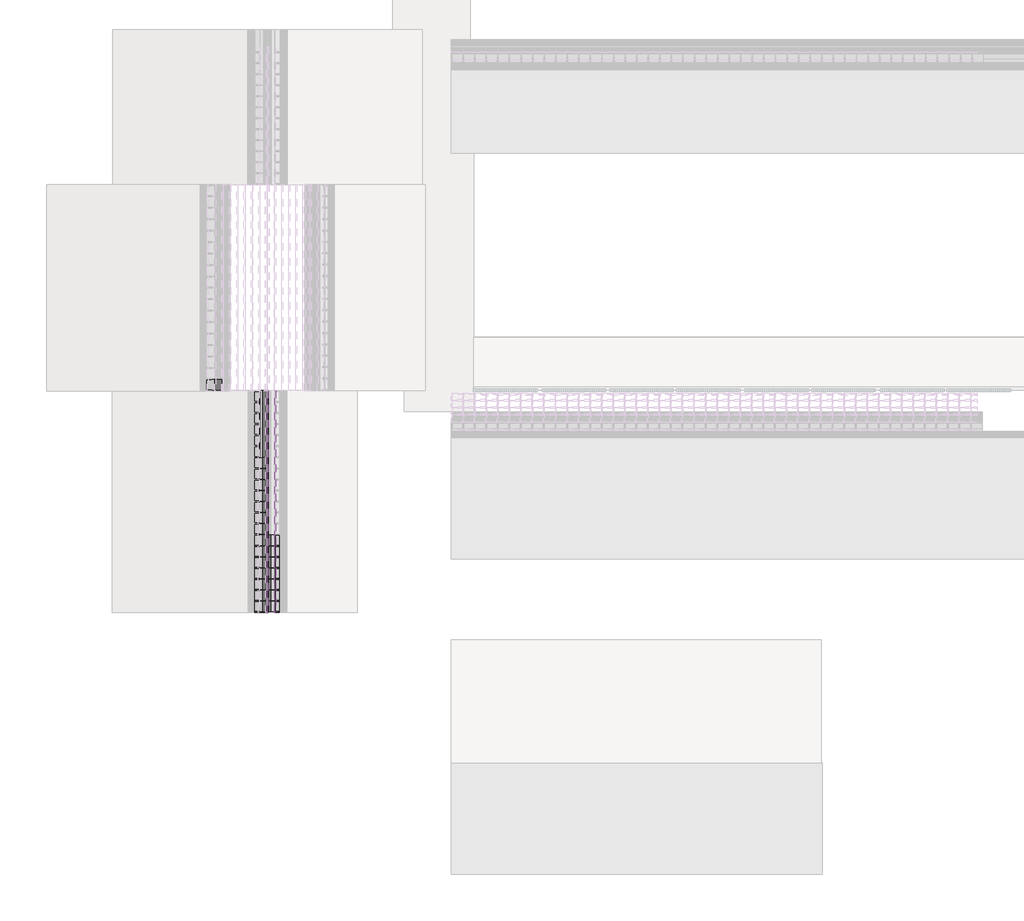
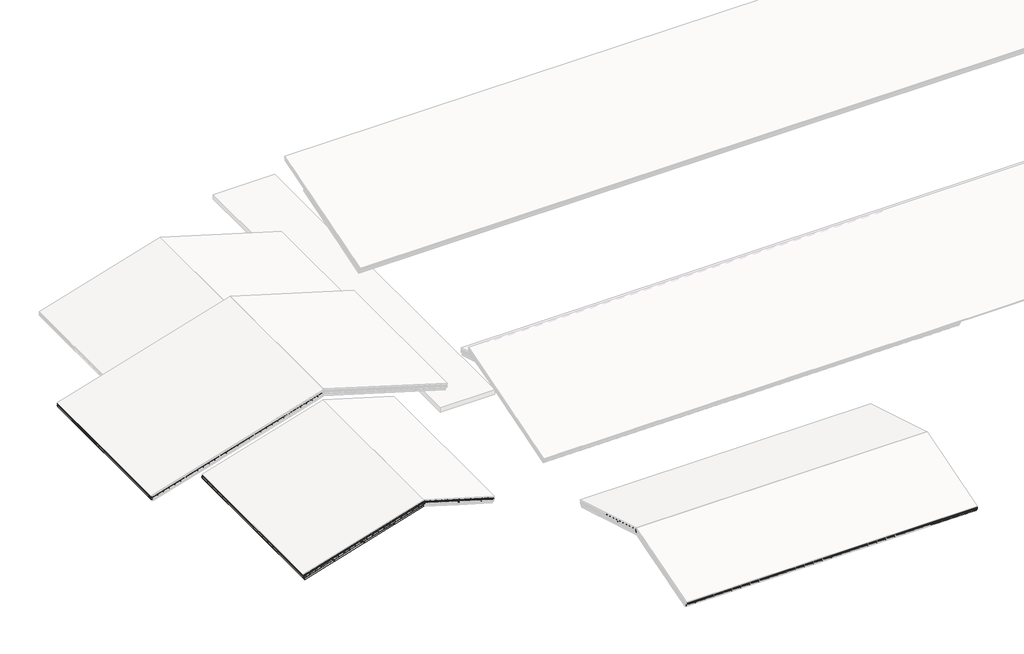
# One storey, part 2 of 57: 63 members, 55 plates.
"""IFC4 building model written with IfcOpenShell, lengths in millimetres."""

from ifc_helpers import new_model, si_unit, origin, place, context, project, spatial, transform, mapped, element, save
from components import rectangular_mullion_b272098b, rectangular_mullion_a7916b99, rectangular_mullion_dcbef4f8, rectangular_mullion_bc0b2bed, rectangular_mullion_8b214443, rectangular_mullion_bc301d54, rectangular_mullion_35f9c98c, rectangular_mullion_022dada1, rectangular_mullion_cefe3f92, rectangular_mullion_79e982fb, rectangular_mullion_b07fcf9a, rectangular_mullion_e60b9168, rectangular_mullion_caibro_1cbfab12, rectangular_mullion_caibro_0a25a9c4, rectangular_mullion_caibro_ac67e9b7, rectangular_mullion_caibro_cfc8c254, rectangular_mullion_caibro_bb2cc13f, rectangular_mullion_caibro_00c653ff, rectangular_mullion_caibro_a4ed09ad, empty_system_panel_vazio_bc36503b, empty_system_panel_vazio_568114d9, empty_system_panel_vazio_0e0d2d6c, empty_system_panel_vazio_2a3f5358, empty_system_panel_vazio_a9f1091a, empty_system_panel_vazio_cec06a23

model = new_model("IFC4")

# Units and contexts
model_context = context("Model", 3, world=origin())
ifc_project = project(units=[si_unit("LENGTHUNIT", "METRE", prefix="MILLI")], contexts=[model_context])

# Site, building, storey
site = spatial("IfcSite", under=ifc_project)
building = spatial("IfcBuilding", under=site)
storey = spatial("IfcBuildingStorey", under=building, Name="Nível 2", Elevation=4100.0)

# Members
placement = place(None, origin())
rectangular_mullion_shape = rectangular_mullion_b272098b(model_context)
element("IfcMember", 1, ObjectType="Rectangular Mullion : Ripa", at=placement, inside=storey, context=model_context, shape_type="MappedRepresentation", body=[
    mapped(rectangular_mullion_shape, transform((-15764.759843, 4190.293711, 3027.8480636), x_axis=(-0.9578262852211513, 0.0, -0.2873478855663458), y_axis=(0.2873478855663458, 0.0, -0.9578262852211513), z_axis=(0.0, -1.0, 0.0))),
])
rectangular_mullion_2_shape = rectangular_mullion_a7916b99(model_context)
element("IfcMember", 2, ObjectType="Rectangular Mullion : Terça", at=placement, inside=storey, context=model_context, shape_type="MappedRepresentation", body=[
    mapped(rectangular_mullion_2_shape, transform((-15764.759843, 4190.293711, 2902.5643855), x_axis=(-0.9578262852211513, 0.0, -0.2873478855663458), y_axis=(0.2873478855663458, 0.0, -0.9578262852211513), z_axis=(0.0, -1.0, 0.0))),
])
rectangular_mullion_3_shape = rectangular_mullion_dcbef4f8(model_context)
element("IfcMember", 3, ObjectType="Rectangular Mullion : Ripa", at=placement, inside=storey, context=model_context, shape_type="MappedRepresentation", body=[
    mapped(rectangular_mullion_3_shape, transform((-3596.6564496, 4190.5535156, 4159.2307066), x_axis=(-0.9578262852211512, 0.0, 0.2873478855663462), y_axis=(-0.2873478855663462, 0.0, -0.9578262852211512), z_axis=(0.0, -1.0, 0.0))),
])
element("IfcMember", 4, ObjectType="Rectangular Mullion : Ripa", at=placement, inside=storey, context=model_context, shape_type="MappedRepresentation", body=[
    mapped(rectangular_mullion_3_shape, transform((-3978.4736982, 4190.5535156, 4273.7758812), x_axis=(-0.9578262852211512, 0.0, 0.2873478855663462), y_axis=(-0.2873478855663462, 0.0, -0.9578262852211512), z_axis=(0.0, -1.0, 0.0))),
])
element("IfcMember", 5, ObjectType="Rectangular Mullion : Ripa", at=placement, inside=storey, context=model_context, shape_type="MappedRepresentation", body=[
    mapped(rectangular_mullion_3_shape, transform((-4360.2909468, 4190.5535156, 4388.3210558), x_axis=(-0.9578262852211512, 0.0, 0.2873478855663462), y_axis=(-0.2873478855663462, 0.0, -0.9578262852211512), z_axis=(0.0, -1.0, 0.0))),
])
element("IfcMember", 6, ObjectType="Rectangular Mullion : Ripa", at=placement, inside=storey, context=model_context, shape_type="MappedRepresentation", body=[
    mapped(rectangular_mullion_3_shape, transform((-4742.1081954, 4190.5535156, 4502.8662304), x_axis=(-0.9578262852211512, 0.0, 0.2873478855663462), y_axis=(-0.2873478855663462, 0.0, -0.9578262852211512), z_axis=(0.0, -1.0, 0.0))),
])
element("IfcMember", 7, ObjectType="Rectangular Mullion : Ripa", at=placement, inside=storey, context=model_context, shape_type="MappedRepresentation", body=[
    mapped(rectangular_mullion_3_shape, transform((-5123.925444, 4190.5535156, 4617.4114049), x_axis=(-0.9578262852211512, 0.0, 0.2873478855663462), y_axis=(-0.2873478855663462, 0.0, -0.9578262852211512), z_axis=(0.0, -1.0, 0.0))),
])
element("IfcMember", 8, ObjectType="Rectangular Mullion : Ripa", at=placement, inside=storey, context=model_context, shape_type="MappedRepresentation", body=[
    mapped(rectangular_mullion_3_shape, transform((-5505.7426926, 4190.5535156, 4731.9565795), x_axis=(-0.9578262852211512, 0.0, 0.2873478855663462), y_axis=(-0.2873478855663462, 0.0, -0.9578262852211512), z_axis=(0.0, -1.0, 0.0))),
])
element("IfcMember", 9, ObjectType="Rectangular Mullion : Ripa", at=placement, inside=storey, context=model_context, shape_type="MappedRepresentation", body=[
    mapped(rectangular_mullion_3_shape, transform((-5887.5599412, 4190.5535156, 4846.5017541), x_axis=(-0.9578262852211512, 0.0, 0.2873478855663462), y_axis=(-0.2873478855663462, 0.0, -0.9578262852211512), z_axis=(0.0, -1.0, 0.0))),
])
element("IfcMember", 10, ObjectType="Rectangular Mullion : Ripa", at=placement, inside=storey, context=model_context, shape_type="MappedRepresentation", body=[
    mapped(rectangular_mullion_3_shape, transform((-6269.3771899, 4190.5535156, 4961.0469287), x_axis=(-0.9578262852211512, 0.0, 0.2873478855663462), y_axis=(-0.2873478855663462, 0.0, -0.9578262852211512), z_axis=(0.0, -1.0, 0.0))),
])
element("IfcMember", 11, ObjectType="Rectangular Mullion : Ripa", at=placement, inside=storey, context=model_context, shape_type="MappedRepresentation", body=[
    mapped(rectangular_mullion_3_shape, transform((-6651.1944385, 4190.5535156, 5075.5921033), x_axis=(-0.9578262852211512, 0.0, 0.2873478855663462), y_axis=(-0.2873478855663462, 0.0, -0.9578262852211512), z_axis=(0.0, -1.0, 0.0))),
])
element("IfcMember", 12, ObjectType="Rectangular Mullion : Ripa", at=placement, inside=storey, context=model_context, shape_type="MappedRepresentation", body=[
    mapped(rectangular_mullion_3_shape, transform((-7033.0116871, 4190.5535156, 5190.1372779), x_axis=(-0.9578262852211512, 0.0, 0.2873478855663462), y_axis=(-0.2873478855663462, 0.0, -0.9578262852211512), z_axis=(0.0, -1.0, 0.0))),
])
element("IfcMember", 13, ObjectType="Rectangular Mullion : Ripa", at=placement, inside=storey, context=model_context, shape_type="MappedRepresentation", body=[
    mapped(rectangular_mullion_3_shape, transform((-7414.8289357, 4190.5535156, 5304.6824524), x_axis=(-0.9578262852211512, 0.0, 0.2873478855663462), y_axis=(-0.2873478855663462, 0.0, -0.9578262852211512), z_axis=(0.0, -1.0, 0.0))),
])
element("IfcMember", 14, ObjectType="Rectangular Mullion : Ripa", at=placement, inside=storey, context=model_context, shape_type="MappedRepresentation", body=[
    mapped(rectangular_mullion_3_shape, transform((-7796.6461843, 4190.5535156, 5419.227627), x_axis=(-0.9578262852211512, 0.0, 0.2873478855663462), y_axis=(-0.2873478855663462, 0.0, -0.9578262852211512), z_axis=(0.0, -1.0, 0.0))),
])
rectangular_mullion_4_shape = rectangular_mullion_bc0b2bed(model_context)
element("IfcMember", 15, ObjectType="Rectangular Mullion : Terça", at=placement, inside=storey, context=model_context, shape_type="MappedRepresentation", body=[
    mapped(rectangular_mullion_4_shape, transform((-7796.6461843, 4190.5535156, 5293.9439489), x_axis=(-0.9578262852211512, 0.0, 0.2873478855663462), y_axis=(-0.2873478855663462, 0.0, -0.9578262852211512), z_axis=(0.0, -1.0, 0.0))),
])
rectangular_mullion_5_shape = rectangular_mullion_8b214443(model_context)
element("IfcMember", 16, ObjectType="Rectangular Mullion : Terça", at=placement, inside=storey, context=model_context, shape_type="MappedRepresentation", body=[
    mapped(rectangular_mullion_5_shape, transform((-5481.7970355, 4190.5535156, 4599.4892043), x_axis=(-0.9578262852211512, 0.0, 0.2873478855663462), y_axis=(-0.2873478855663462, 0.0, -0.9578262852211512), z_axis=(0.0, -1.0, 0.0))),
])
rectangular_mullion_6_shape = rectangular_mullion_bc301d54(model_context)
element("IfcMember", 17, ObjectType="Rectangular Mullion : Ripa", at=placement, inside=storey, context=model_context, shape_type="MappedRepresentation", body=[
    mapped(rectangular_mullion_6_shape, transform((-19169.7920717, 15650.3023843, 2750.3181378), x_axis=(-0.9578262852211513, 0.0, -0.2873478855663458), y_axis=(0.2873478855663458, 0.0, -0.9578262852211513), z_axis=(0.0, -1.0, 0.0))),
])
rectangular_mullion_7_shape = rectangular_mullion_35f9c98c(model_context)
element("IfcMember", 18, ObjectType="Rectangular Mullion : Terça", at=placement, inside=storey, context=model_context, shape_type="MappedRepresentation", body=[
    mapped(rectangular_mullion_7_shape, transform((-19169.7920717, 15650.3023843, 2625.0344596), x_axis=(-0.9578262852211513, 0.0, -0.2873478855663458), y_axis=(0.2873478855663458, 0.0, -0.9578262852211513), z_axis=(0.0, -1.0, 0.0))),
])
rectangular_mullion_8_shape = rectangular_mullion_022dada1(model_context)
element("IfcMember", 19, ObjectType="Rectangular Mullion : Terça", at=placement, inside=storey, context=model_context, shape_type="MappedRepresentation", body=[
    mapped(rectangular_mullion_8_shape, transform((20926.5285525, -9291.4745968, 3015.3789835), x_axis=(0.0, -0.9578262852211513, -0.2873478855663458), y_axis=(0.0, 0.2873478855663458, -0.9578262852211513), z_axis=(1.0, 0.0, 0.0))),
])
rectangular_mullion_9_shape = rectangular_mullion_cefe3f92(model_context)
element("IfcMember", 20, ObjectType="Rectangular Mullion : Ripa", at=placement, inside=storey, context=model_context, shape_type="MappedRepresentation", body=[
    mapped(rectangular_mullion_9_shape, transform((20926.5285525, -9325.9563431, 3130.3181378), x_axis=(0.0, -0.9578262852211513, -0.2873478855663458), y_axis=(0.0, 0.2873478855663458, -0.9578262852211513), z_axis=(1.0, 0.0, 0.0))),
])
rectangular_mullion_10_shape = rectangular_mullion_79e982fb(model_context)
element("IfcMember", 21, ObjectType="Rectangular Mullion : Terça", at=placement, inside=storey, context=model_context, shape_type="MappedRepresentation", body=[
    mapped(rectangular_mullion_10_shape, transform((20876.5285525, -3624.6911316, 4715.4765231), x_axis=(0.0, -0.9578262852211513, 0.2873478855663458), y_axis=(0.0, -0.2873478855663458, -0.9578262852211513), z_axis=(1.0, 0.0, 0.0))),
])
rectangular_mullion_11_shape = rectangular_mullion_b07fcf9a(model_context)
element("IfcMember", 22, ObjectType="Rectangular Mullion : Terça", at=placement, inside=storey, context=model_context, shape_type="MappedRepresentation", body=[
    mapped(rectangular_mullion_11_shape, transform((20876.5285525, -1491.3577983, 4075.4765231), x_axis=(0.0, -0.9578262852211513, 0.2873478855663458), y_axis=(0.0, -0.2873478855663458, -0.9578262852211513), z_axis=(1.0, 0.0, 0.0))),
])
rectangular_mullion_12_shape = rectangular_mullion_e60b9168(model_context)
element("IfcMember", 23, ObjectType="Rectangular Mullion : Ripa", at=placement, inside=storey, context=model_context, shape_type="MappedRepresentation", body=[
    mapped(rectangular_mullion_12_shape, transform((20876.5285525, -277.0225978, 3836.459641), x_axis=(0.0, -0.9578262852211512, 0.2873478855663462), y_axis=(0.0, -0.2873478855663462, -0.9578262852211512), z_axis=(1.0, 0.0, 0.0))),
])
element("IfcMember", 24, ObjectType="Rectangular Mullion : Ripa", at=placement, inside=storey, context=model_context, shape_type="MappedRepresentation", body=[
    mapped(rectangular_mullion_12_shape, transform((20876.5285525, -648.9857682, 3948.0485922), x_axis=(0.0, -0.9578262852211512, 0.2873478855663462), y_axis=(0.0, -0.2873478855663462, -0.9578262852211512), z_axis=(1.0, 0.0, 0.0))),
])
element("IfcMember", 25, ObjectType="Rectangular Mullion : Ripa", at=placement, inside=storey, context=model_context, shape_type="MappedRepresentation", body=[
    mapped(rectangular_mullion_12_shape, transform((20876.5285525, -1020.9489387, 4059.6375433), x_axis=(0.0, -0.9578262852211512, 0.2873478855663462), y_axis=(0.0, -0.2873478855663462, -0.9578262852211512), z_axis=(1.0, 0.0, 0.0))),
])
element("IfcMember", 26, ObjectType="Rectangular Mullion : Ripa", at=placement, inside=storey, context=model_context, shape_type="MappedRepresentation", body=[
    mapped(rectangular_mullion_12_shape, transform((20876.5285525, -1392.9121091, 4171.2264944), x_axis=(0.0, -0.9578262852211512, 0.2873478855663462), y_axis=(0.0, -0.2873478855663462, -0.9578262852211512), z_axis=(1.0, 0.0, 0.0))),
])
element("IfcMember", 27, ObjectType="Rectangular Mullion : Ripa", at=placement, inside=storey, context=model_context, shape_type="MappedRepresentation", body=[
    mapped(rectangular_mullion_12_shape, transform((20876.5285525, -1764.8752795, 4282.8154455), x_axis=(0.0, -0.9578262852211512, 0.2873478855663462), y_axis=(0.0, -0.2873478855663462, -0.9578262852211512), z_axis=(1.0, 0.0, 0.0))),
])
element("IfcMember", 28, ObjectType="Rectangular Mullion : Ripa", at=placement, inside=storey, context=model_context, shape_type="MappedRepresentation", body=[
    mapped(rectangular_mullion_12_shape, transform((20876.5285525, -2136.8384499, 4394.4043967), x_axis=(0.0, -0.9578262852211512, 0.2873478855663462), y_axis=(0.0, -0.2873478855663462, -0.9578262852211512), z_axis=(1.0, 0.0, 0.0))),
])
element("IfcMember", 29, ObjectType="Rectangular Mullion : Ripa", at=placement, inside=storey, context=model_context, shape_type="MappedRepresentation", body=[
    mapped(rectangular_mullion_12_shape, transform((20876.5285525, -2508.8016204, 4505.9933478), x_axis=(0.0, -0.9578262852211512, 0.2873478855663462), y_axis=(0.0, -0.2873478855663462, -0.9578262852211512), z_axis=(1.0, 0.0, 0.0))),
])
element("IfcMember", 30, ObjectType="Rectangular Mullion : Ripa", at=placement, inside=storey, context=model_context, shape_type="MappedRepresentation", body=[
    mapped(rectangular_mullion_12_shape, transform((20876.5285525, -2880.7647908, 4617.5822989), x_axis=(0.0, -0.9578262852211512, 0.2873478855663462), y_axis=(0.0, -0.2873478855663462, -0.9578262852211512), z_axis=(1.0, 0.0, 0.0))),
])
element("IfcMember", 31, ObjectType="Rectangular Mullion : Ripa", at=placement, inside=storey, context=model_context, shape_type="MappedRepresentation", body=[
    mapped(rectangular_mullion_12_shape, transform((20876.5285525, -3252.7279612, 4729.1712501), x_axis=(0.0, -0.9578262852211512, 0.2873478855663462), y_axis=(0.0, -0.2873478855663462, -0.9578262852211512), z_axis=(1.0, 0.0, 0.0))),
])
element("IfcMember", 32, ObjectType="Rectangular Mullion : Ripa", at=placement, inside=storey, context=model_context, shape_type="MappedRepresentation", body=[
    mapped(rectangular_mullion_12_shape, transform((20876.5285525, -3624.6911316, 4840.7602012), x_axis=(0.0, -0.9578262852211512, 0.2873478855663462), y_axis=(0.0, -0.2873478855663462, -0.9578262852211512), z_axis=(1.0, 0.0, 0.0))),
])
rectangular_mullion_caibro_shape = rectangular_mullion_caibro_1cbfab12(model_context)
element("IfcMember", 33, ObjectType="Rectangular Mullion : Caibro", at=placement, inside=storey, context=model_context, shape_type="MappedRepresentation", body=[
    mapped(rectangular_mullion_caibro_shape, transform((-7793.4946316, 4190.293711, 5419.227627), x_axis=(0.0, -1.0, 0.0), y_axis=(0.2873478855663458, 0.0, -0.9578262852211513), z_axis=(0.9578262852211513, 0.0, 0.2873478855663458))),
])
rectangular_mullion_caibro_2_shape = rectangular_mullion_caibro_0a25a9c4(model_context)
element("IfcMember", 34, ObjectType="Rectangular Mullion : Caibro", at=placement, inside=storey, context=model_context, shape_type="MappedRepresentation", body=[
    mapped(rectangular_mullion_caibro_2_shape, transform((-7793.4946316, 7650.2568285, 5419.227627), x_axis=(0.0, -1.0, 0.0), y_axis=(0.28734788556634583, 0.0, -0.9578262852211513), z_axis=(0.9578262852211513, 0.0, 0.28734788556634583))),
])
element("IfcMember", 35, ObjectType="Rectangular Mullion : Caibro", at=placement, inside=storey, context=model_context, shape_type="MappedRepresentation", body=[
    mapped(rectangular_mullion_caibro_2_shape, transform((-7793.4946316, 7077.7629756, 5419.227627), x_axis=(0.0, -1.0, 0.0), y_axis=(0.28734788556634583, 0.0, -0.9578262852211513), z_axis=(0.9578262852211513, 0.0, 0.28734788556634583))),
])
element("IfcMember", 36, ObjectType="Rectangular Mullion : Caibro", at=placement, inside=storey, context=model_context, shape_type="MappedRepresentation", body=[
    mapped(rectangular_mullion_caibro_2_shape, transform((-7793.4946316, 6505.2691227, 5419.227627), x_axis=(0.0, -1.0, 0.0), y_axis=(0.2873478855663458, 0.0, -0.9578262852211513), z_axis=(0.9578262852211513, 0.0, 0.2873478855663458))),
])
element("IfcMember", 37, ObjectType="Rectangular Mullion : Caibro", at=placement, inside=storey, context=model_context, shape_type="MappedRepresentation", body=[
    mapped(rectangular_mullion_caibro_2_shape, transform((-7793.4946316, 5932.7752699, 5419.227627), x_axis=(0.0, -1.0, 0.0), y_axis=(0.2873478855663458, 0.0, -0.9578262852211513), z_axis=(0.9578262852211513, 0.0, 0.2873478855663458))),
])
element("IfcMember", 38, ObjectType="Rectangular Mullion : Caibro", at=placement, inside=storey, context=model_context, shape_type="MappedRepresentation", body=[
    mapped(rectangular_mullion_caibro_2_shape, transform((-7793.4946316, 5360.281417, 5419.227627), x_axis=(0.0, -1.0, 0.0), y_axis=(0.2873478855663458, 0.0, -0.9578262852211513), z_axis=(0.9578262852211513, 0.0, 0.2873478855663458))),
])
element("IfcMember", 39, ObjectType="Rectangular Mullion : Caibro", at=placement, inside=storey, context=model_context, shape_type="MappedRepresentation", body=[
    mapped(rectangular_mullion_caibro_2_shape, transform((-7793.4946316, 4787.7875641, 5419.227627), x_axis=(0.0, -1.0, 0.0), y_axis=(0.2873478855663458, 0.0, -0.9578262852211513), z_axis=(0.9578262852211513, 0.0, 0.2873478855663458))),
])
rectangular_mullion_caibro_3_shape = rectangular_mullion_caibro_ac67e9b7(model_context)
element("IfcMember", 40, ObjectType="Rectangular Mullion : Caibro", at=placement, inside=storey, context=model_context, shape_type="MappedRepresentation", body=[
    mapped(rectangular_mullion_caibro_3_shape, transform((-3166.9478867, 4190.5535156, 4030.3181378), x_axis=(0.0, -1.0, 0.0), y_axis=(-0.2873478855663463, 0.0, -0.9578262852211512), z_axis=(0.9578262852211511, 0.0, -0.2873478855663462))),
])
rectangular_mullion_caibro_4_shape = rectangular_mullion_caibro_cfc8c254(model_context)
element("IfcMember", 41, ObjectType="Rectangular Mullion : Caibro", at=placement, inside=storey, context=model_context, shape_type="MappedRepresentation", body=[
    mapped(rectangular_mullion_caibro_4_shape, transform((-7796.6461843, 4788.0343786, 5419.227627), x_axis=(0.0, 1.0, 0.0), y_axis=(-0.2873478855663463, 0.0, -0.9578262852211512), z_axis=(-0.9578262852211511, 0.0, 0.2873478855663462))),
])
element("IfcMember", 42, ObjectType="Rectangular Mullion : Caibro", at=placement, inside=storey, context=model_context, shape_type="MappedRepresentation", body=[
    mapped(rectangular_mullion_caibro_4_shape, transform((-7796.6461843, 5360.5152412, 5419.227627), x_axis=(0.0, 1.0, 0.0), y_axis=(-0.2873478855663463, 0.0, -0.9578262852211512), z_axis=(-0.9578262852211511, 0.0, 0.2873478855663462))),
])
element("IfcMember", 43, ObjectType="Rectangular Mullion : Caibro", at=placement, inside=storey, context=model_context, shape_type="MappedRepresentation", body=[
    mapped(rectangular_mullion_caibro_4_shape, transform((-7796.6461843, 5932.9961038, 5419.227627), x_axis=(0.0, 1.0, 0.0), y_axis=(-0.2873478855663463, 0.0, -0.9578262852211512), z_axis=(-0.9578262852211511, 0.0, 0.2873478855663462))),
])
element("IfcMember", 44, ObjectType="Rectangular Mullion : Caibro", at=placement, inside=storey, context=model_context, shape_type="MappedRepresentation", body=[
    mapped(rectangular_mullion_caibro_4_shape, transform((-7796.6461843, 6505.4769665, 5419.227627), x_axis=(0.0, 1.0, 0.0), y_axis=(-0.2873478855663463, 0.0, -0.9578262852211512), z_axis=(-0.9578262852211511, 0.0, 0.2873478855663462))),
])
element("IfcMember", 45, ObjectType="Rectangular Mullion : Caibro", at=placement, inside=storey, context=model_context, shape_type="MappedRepresentation", body=[
    mapped(rectangular_mullion_caibro_4_shape, transform((-7796.6461843, 7077.9578291, 5419.227627), x_axis=(0.0, 1.0, 0.0), y_axis=(-0.2873478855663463, 0.0, -0.9578262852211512), z_axis=(-0.9578262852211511, 0.0, 0.2873478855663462))),
])
element("IfcMember", 46, ObjectType="Rectangular Mullion : Caibro", at=placement, inside=storey, context=model_context, shape_type="MappedRepresentation", body=[
    mapped(rectangular_mullion_caibro_4_shape, transform((-7796.6461843, 7650.4386918, 5419.227627), x_axis=(0.0, 1.0, 0.0), y_axis=(-0.2873478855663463, 0.0, -0.9578262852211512), z_axis=(-0.9578262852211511, 0.0, 0.2873478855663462))),
])
rectangular_mullion_caibro_5_shape = rectangular_mullion_caibro_bb2cc13f(model_context)
element("IfcMember", 47, ObjectType="Rectangular Mullion : Caibro", at=placement, inside=storey, context=model_context, shape_type="MappedRepresentation", body=[
    mapped(rectangular_mullion_caibro_5_shape, transform((20926.5285525, -3624.6911316, 4840.6977012), x_axis=(1.0, 0.0, 0.0), y_axis=(0.0, 0.2873478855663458, -0.9578262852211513), z_axis=(0.0, 0.9578262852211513, 0.2873478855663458))),
])
rectangular_mullion_caibro_6_shape = rectangular_mullion_caibro_00c653ff(model_context)
element("IfcMember", 48, ObjectType="Rectangular Mullion : Caibro", at=placement, inside=storey, context=model_context, shape_type="MappedRepresentation", body=[
    mapped(rectangular_mullion_caibro_6_shape, transform((16114.0285523, -3624.6911316, 4840.6977012), x_axis=(1.0, 0.0, 0.0), y_axis=(0.0, 0.2873478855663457, -0.9578262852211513), z_axis=(0.0, 0.9578262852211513, 0.2873478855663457))),
])
element("IfcMember", 49, ObjectType="Rectangular Mullion : Caibro", at=placement, inside=storey, context=model_context, shape_type="MappedRepresentation", body=[
    mapped(rectangular_mullion_caibro_6_shape, transform((16712.4660523, -3624.6911316, 4840.6977012), x_axis=(1.0, 0.0, 0.0), y_axis=(0.0, 0.2873478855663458, -0.9578262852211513), z_axis=(0.0, 0.9578262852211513, 0.2873478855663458))),
])
element("IfcMember", 50, ObjectType="Rectangular Mullion : Caibro", at=placement, inside=storey, context=model_context, shape_type="MappedRepresentation", body=[
    mapped(rectangular_mullion_caibro_6_shape, transform((17310.9035523, -3624.6911316, 4840.6977012), x_axis=(1.0, 0.0, 0.0), y_axis=(0.0, 0.28734788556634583, -0.9578262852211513), z_axis=(0.0, 0.9578262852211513, 0.28734788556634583))),
])
element("IfcMember", 51, ObjectType="Rectangular Mullion : Caibro", at=placement, inside=storey, context=model_context, shape_type="MappedRepresentation", body=[
    mapped(rectangular_mullion_caibro_6_shape, transform((17909.3410523, -3624.6911316, 4840.6977012), x_axis=(1.0, 0.0, 0.0), y_axis=(0.0, 0.28734788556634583, -0.9578262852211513), z_axis=(0.0, 0.9578262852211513, 0.28734788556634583))),
])
element("IfcMember", 52, ObjectType="Rectangular Mullion : Caibro", at=placement, inside=storey, context=model_context, shape_type="MappedRepresentation", body=[
    mapped(rectangular_mullion_caibro_6_shape, transform((18507.7785522, -3624.6911316, 4840.6977012), x_axis=(1.0, 0.0, 0.0), y_axis=(0.0, 0.28734788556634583, -0.9578262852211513), z_axis=(0.0, 0.9578262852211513, 0.28734788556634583))),
])
element("IfcMember", 53, ObjectType="Rectangular Mullion : Caibro", at=placement, inside=storey, context=model_context, shape_type="MappedRepresentation", body=[
    mapped(rectangular_mullion_caibro_6_shape, transform((19106.2160522, -3624.6911316, 4840.6977012), x_axis=(1.0, 0.0, 0.0), y_axis=(0.0, 0.28734788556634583, -0.9578262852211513), z_axis=(0.0, 0.9578262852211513, 0.28734788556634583))),
])
element("IfcMember", 54, ObjectType="Rectangular Mullion : Caibro", at=placement, inside=storey, context=model_context, shape_type="MappedRepresentation", body=[
    mapped(rectangular_mullion_caibro_6_shape, transform((19704.6535522, -3624.6911316, 4840.6977012), x_axis=(1.0, 0.0, 0.0), y_axis=(0.0, 0.28734788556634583, -0.9578262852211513), z_axis=(0.0, 0.9578262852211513, 0.28734788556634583))),
])
element("IfcMember", 55, ObjectType="Rectangular Mullion : Caibro", at=placement, inside=storey, context=model_context, shape_type="MappedRepresentation", body=[
    mapped(rectangular_mullion_caibro_6_shape, transform((20303.0910522, -3624.6911316, 4840.6977012), x_axis=(1.0, 0.0, 0.0), y_axis=(0.0, 0.28734788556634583, -0.9578262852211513), z_axis=(0.0, 0.9578262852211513, 0.28734788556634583))),
])
rectangular_mullion_caibro_7_shape = rectangular_mullion_caibro_a4ed09ad(model_context)
element("IfcMember", 56, ObjectType="Rectangular Mullion : Caibro", at=placement, inside=storey, context=model_context, shape_type="MappedRepresentation", body=[
    mapped(rectangular_mullion_caibro_7_shape, transform((20254.6535522, -3624.6911316, 4840.7602012), x_axis=(-1.0, 0.0, 0.0), y_axis=(0.0, -0.2873478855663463, -0.9578262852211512), z_axis=(0.0, -0.9578262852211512, 0.2873478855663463))),
])
element("IfcMember", 57, ObjectType="Rectangular Mullion : Caibro", at=placement, inside=storey, context=model_context, shape_type="MappedRepresentation", body=[
    mapped(rectangular_mullion_caibro_7_shape, transform((19657.7785522, -3624.6911316, 4840.7602012), x_axis=(-1.0, 0.0, 0.0), y_axis=(0.0, -0.2873478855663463, -0.9578262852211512), z_axis=(0.0, -0.9578262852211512, 0.2873478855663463))),
])
element("IfcMember", 58, ObjectType="Rectangular Mullion : Caibro", at=placement, inside=storey, context=model_context, shape_type="MappedRepresentation", body=[
    mapped(rectangular_mullion_caibro_7_shape, transform((19060.9035522, -3624.6911316, 4840.7602012), x_axis=(-1.0, 0.0, 0.0), y_axis=(0.0, -0.2873478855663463, -0.9578262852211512), z_axis=(0.0, -0.9578262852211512, 0.2873478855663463))),
])
element("IfcMember", 59, ObjectType="Rectangular Mullion : Caibro", at=placement, inside=storey, context=model_context, shape_type="MappedRepresentation", body=[
    mapped(rectangular_mullion_caibro_7_shape, transform((18464.0285522, -3624.6911316, 4840.7602012), x_axis=(-1.0, 0.0, 0.0), y_axis=(0.0, -0.2873478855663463, -0.9578262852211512), z_axis=(0.0, -0.9578262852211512, 0.2873478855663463))),
])
element("IfcMember", 60, ObjectType="Rectangular Mullion : Caibro", at=placement, inside=storey, context=model_context, shape_type="MappedRepresentation", body=[
    mapped(rectangular_mullion_caibro_7_shape, transform((17867.1535523, -3624.6911316, 4840.7602012), x_axis=(-1.0, 0.0, 0.0), y_axis=(0.0, -0.2873478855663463, -0.9578262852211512), z_axis=(0.0, -0.9578262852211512, 0.2873478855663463))),
])
element("IfcMember", 61, ObjectType="Rectangular Mullion : Caibro", at=placement, inside=storey, context=model_context, shape_type="MappedRepresentation", body=[
    mapped(rectangular_mullion_caibro_7_shape, transform((17270.2785523, -3624.6911316, 4840.7602012), x_axis=(-1.0, 0.0, 0.0), y_axis=(0.0, -0.2873478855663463, -0.9578262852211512), z_axis=(0.0, -0.9578262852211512, 0.2873478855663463))),
])
element("IfcMember", 62, ObjectType="Rectangular Mullion : Caibro", at=placement, inside=storey, context=model_context, shape_type="MappedRepresentation", body=[
    mapped(rectangular_mullion_caibro_7_shape, transform((16673.4035523, -3624.6911316, 4840.7602012), x_axis=(-1.0, 0.0, 0.0), y_axis=(0.0, -0.2873478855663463, -0.9578262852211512), z_axis=(0.0, -0.9578262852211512, 0.2873478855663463))),
])
element("IfcMember", 63, ObjectType="Rectangular Mullion : Caibro", at=placement, inside=storey, context=model_context, shape_type="MappedRepresentation", body=[
    mapped(rectangular_mullion_caibro_7_shape, transform((16076.5285523, -3624.6911316, 4840.7602012), x_axis=(-1.0, 0.0, 0.0), y_axis=(0.0, -0.2873478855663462, -0.9578262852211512), z_axis=(0.0, -0.9578262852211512, 0.2873478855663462))),
])

# Plates
empty_system_panel_vazio_shape = empty_system_panel_vazio_bc36503b(model_context)
element("IfcPlate", 64, ObjectType="Empty System Panel : Vazio", at=placement, inside=storey, context=model_context, shape_type="MappedRepresentation", body=[
    mapped(empty_system_panel_vazio_shape, transform((-15716.8685288, 9940.23224, 3042.2154579), x_axis=(0.0, -1.0, 0.0), y_axis=(0.2873478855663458, 0.0, -0.9578262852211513), z_axis=(0.9578262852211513, 0.0, 0.2873478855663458))),
])
element("IfcPlate", 65, ObjectType="Empty System Panel : Vazio", at=placement, inside=storey, context=model_context, shape_type="MappedRepresentation", body=[
    mapped(empty_system_panel_vazio_shape, transform((-15339.5650098, 9940.23224, 3155.4065135), x_axis=(0.0, -1.0, 0.0), y_axis=(0.2873478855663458, 0.0, -0.9578262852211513), z_axis=(0.9578262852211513, 0.0, 0.2873478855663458))),
])
element("IfcPlate", 66, ObjectType="Empty System Panel : Vazio", at=placement, inside=storey, context=model_context, shape_type="MappedRepresentation", body=[
    mapped(empty_system_panel_vazio_shape, transform((-14962.2614909, 9940.23224, 3268.5975692), x_axis=(0.0, -1.0, 0.0), y_axis=(0.2873478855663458, 0.0, -0.9578262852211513), z_axis=(0.9578262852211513, 0.0, 0.2873478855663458))),
])
element("IfcPlate", 67, ObjectType="Empty System Panel : Vazio", at=placement, inside=storey, context=model_context, shape_type="MappedRepresentation", body=[
    mapped(empty_system_panel_vazio_shape, transform((-14584.957972, 9940.23224, 3381.7886249), x_axis=(0.0, -1.0, 0.0), y_axis=(0.2873478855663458, 0.0, -0.9578262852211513), z_axis=(0.9578262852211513, 0.0, 0.2873478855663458))),
])
element("IfcPlate", 68, ObjectType="Empty System Panel : Vazio", at=placement, inside=storey, context=model_context, shape_type="MappedRepresentation", body=[
    mapped(empty_system_panel_vazio_shape, transform((-14207.6544531, 9940.23224, 3494.9796806), x_axis=(0.0, -1.0, 0.0), y_axis=(0.2873478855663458, 0.0, -0.9578262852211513), z_axis=(0.9578262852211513, 0.0, 0.2873478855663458))),
])
element("IfcPlate", 69, ObjectType="Empty System Panel : Vazio", at=placement, inside=storey, context=model_context, shape_type="MappedRepresentation", body=[
    mapped(empty_system_panel_vazio_shape, transform((-13830.3509342, 9940.23224, 3608.1707362), x_axis=(0.0, -1.0, 0.0), y_axis=(0.2873478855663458, 0.0, -0.9578262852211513), z_axis=(0.9578262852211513, 0.0, 0.2873478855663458))),
])
element("IfcPlate", 70, ObjectType="Empty System Panel : Vazio", at=placement, inside=storey, context=model_context, shape_type="MappedRepresentation", body=[
    mapped(empty_system_panel_vazio_shape, transform((-13453.0474153, 9940.23224, 3721.3617919), x_axis=(0.0, -1.0, 0.0), y_axis=(0.2873478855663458, 0.0, -0.9578262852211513), z_axis=(0.9578262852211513, 0.0, 0.2873478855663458))),
])
element("IfcPlate", 71, ObjectType="Empty System Panel : Vazio", at=placement, inside=storey, context=model_context, shape_type="MappedRepresentation", body=[
    mapped(empty_system_panel_vazio_shape, transform((-13075.7438964, 9940.23224, 3834.5528476), x_axis=(0.0, -1.0, 0.0), y_axis=(0.2873478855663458, 0.0, -0.9578262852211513), z_axis=(0.9578262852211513, 0.0, 0.2873478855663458))),
])
element("IfcPlate", 72, ObjectType="Empty System Panel : Vazio", at=placement, inside=storey, context=model_context, shape_type="MappedRepresentation", body=[
    mapped(empty_system_panel_vazio_shape, transform((-12698.4403774, 9940.23224, 3947.7439033), x_axis=(0.0, -1.0, 0.0), y_axis=(0.2873478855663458, 0.0, -0.9578262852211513), z_axis=(0.9578262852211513, 0.0, 0.2873478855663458))),
])
element("IfcPlate", 73, ObjectType="Empty System Panel : Vazio", at=placement, inside=storey, context=model_context, shape_type="MappedRepresentation", body=[
    mapped(empty_system_panel_vazio_shape, transform((-12321.1368585, 9940.23224, 4060.9349589), x_axis=(0.0, -1.0, 0.0), y_axis=(0.2873478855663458, 0.0, -0.9578262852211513), z_axis=(0.9578262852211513, 0.0, 0.2873478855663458))),
])
element("IfcPlate", 74, ObjectType="Empty System Panel : Vazio", at=placement, inside=storey, context=model_context, shape_type="MappedRepresentation", body=[
    mapped(empty_system_panel_vazio_shape, transform((-11943.8333396, 9940.23224, 4174.1260146), x_axis=(0.0, -1.0, 0.0), y_axis=(0.2873478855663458, 0.0, -0.9578262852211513), z_axis=(0.9578262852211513, 0.0, 0.2873478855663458))),
])
element("IfcPlate", 75, ObjectType="Empty System Panel : Vazio", at=placement, inside=storey, context=model_context, shape_type="MappedRepresentation", body=[
    mapped(empty_system_panel_vazio_shape, transform((-11566.5298207, 9940.23224, 4287.3170703), x_axis=(0.0, -1.0, 0.0), y_axis=(0.2873478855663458, 0.0, -0.9578262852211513), z_axis=(0.9578262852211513, 0.0, 0.2873478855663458))),
])
element("IfcPlate", 76, ObjectType="Empty System Panel : Vazio", at=placement, inside=storey, context=model_context, shape_type="MappedRepresentation", body=[
    mapped(empty_system_panel_vazio_shape, transform((-11189.2263018, 9940.23224, 4400.508126), x_axis=(0.0, -1.0, 0.0), y_axis=(0.2873478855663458, 0.0, -0.9578262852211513), z_axis=(0.9578262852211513, 0.0, 0.2873478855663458))),
])
element("IfcPlate", 77, ObjectType="Empty System Panel : Vazio", at=placement, inside=storey, context=model_context, shape_type="MappedRepresentation", body=[
    mapped(empty_system_panel_vazio_shape, transform((-10811.9227829, 9940.23224, 4513.6991816), x_axis=(0.0, -1.0, 0.0), y_axis=(0.2873478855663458, 0.0, -0.9578262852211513), z_axis=(0.9578262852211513, 0.0, 0.2873478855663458))),
])
element("IfcPlate", 78, ObjectType="Empty System Panel : Vazio", at=placement, inside=storey, context=model_context, shape_type="MappedRepresentation", body=[
    mapped(empty_system_panel_vazio_shape, transform((-10434.619264, 9940.23224, 4626.8902373), x_axis=(0.0, -1.0, 0.0), y_axis=(0.2873478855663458, 0.0, -0.9578262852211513), z_axis=(0.9578262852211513, 0.0, 0.2873478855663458))),
])
element("IfcPlate", 79, ObjectType="Empty System Panel : Vazio", at=placement, inside=storey, context=model_context, shape_type="MappedRepresentation", body=[
    mapped(empty_system_panel_vazio_shape, transform((-10057.3157451, 9940.23224, 4740.081293), x_axis=(0.0, -1.0, 0.0), y_axis=(0.2873478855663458, 0.0, -0.9578262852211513), z_axis=(0.9578262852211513, 0.0, 0.2873478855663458))),
])
element("IfcPlate", 80, ObjectType="Empty System Panel : Vazio", at=placement, inside=storey, context=model_context, shape_type="MappedRepresentation", body=[
    mapped(empty_system_panel_vazio_shape, transform((-9680.0122261, 9940.23224, 4853.2723487), x_axis=(0.0, -1.0, 0.0), y_axis=(0.2873478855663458, 0.0, -0.9578262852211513), z_axis=(0.9578262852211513, 0.0, 0.2873478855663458))),
])
element("IfcPlate", 81, ObjectType="Empty System Panel : Vazio", at=placement, inside=storey, context=model_context, shape_type="MappedRepresentation", body=[
    mapped(empty_system_panel_vazio_shape, transform((-9302.7087072, 9940.23224, 4966.4634043), x_axis=(0.0, -1.0, 0.0), y_axis=(0.2873478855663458, 0.0, -0.9578262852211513), z_axis=(0.9578262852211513, 0.0, 0.2873478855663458))),
])
element("IfcPlate", 82, ObjectType="Empty System Panel : Vazio", at=placement, inside=storey, context=model_context, shape_type="MappedRepresentation", body=[
    mapped(empty_system_panel_vazio_shape, transform((-8925.4051883, 9940.23224, 5079.65446), x_axis=(0.0, -1.0, 0.0), y_axis=(0.2873478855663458, 0.0, -0.9578262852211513), z_axis=(0.9578262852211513, 0.0, 0.2873478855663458))),
])
element("IfcPlate", 83, ObjectType="Empty System Panel : Vazio", at=placement, inside=storey, context=model_context, shape_type="MappedRepresentation", body=[
    mapped(empty_system_panel_vazio_shape, transform((-8548.1016694, 9940.23224, 5192.8455157), x_axis=(0.0, -1.0, 0.0), y_axis=(0.2873478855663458, 0.0, -0.9578262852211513), z_axis=(0.9578262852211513, 0.0, 0.2873478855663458))),
])
element("IfcPlate", 84, ObjectType="Empty System Panel : Vazio", at=placement, inside=storey, context=model_context, shape_type="MappedRepresentation", body=[
    mapped(empty_system_panel_vazio_shape, transform((-8170.7981505, 9940.23224, 5306.0365714), x_axis=(0.0, -1.0, 0.0), y_axis=(0.2873478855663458, 0.0, -0.9578262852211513), z_axis=(0.9578262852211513, 0.0, 0.2873478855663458))),
])
empty_system_panel_vazio_2_shape = empty_system_panel_vazio_568114d9(model_context)
element("IfcPlate", 85, ObjectType="Empty System Panel : Vazio", at=placement, inside=storey, context=model_context, shape_type="MappedRepresentation", body=[
    mapped(empty_system_panel_vazio_2_shape, transform((-15764.759843, 13661.4422836, 3027.8480636), x_axis=(0.0, -1.0, 0.0), y_axis=(0.2873478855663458, 0.0, -0.9578262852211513), z_axis=(0.9578262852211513, 0.0, 0.2873478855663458))),
])
element("IfcPlate", 86, ObjectType="Empty System Panel : Vazio", at=placement, inside=storey, context=model_context, shape_type="MappedRepresentation", body=[
    mapped(empty_system_panel_vazio_2_shape, transform((-15764.759843, 13088.9484308, 3027.8480636), x_axis=(0.0, -1.0, 0.0), y_axis=(0.2873478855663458, 0.0, -0.9578262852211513), z_axis=(0.9578262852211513, 0.0, 0.2873478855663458))),
])
element("IfcPlate", 87, ObjectType="Empty System Panel : Vazio", at=placement, inside=storey, context=model_context, shape_type="MappedRepresentation", body=[
    mapped(empty_system_panel_vazio_2_shape, transform((-15764.759843, 12516.4545779, 3027.8480636), x_axis=(0.0, -1.0, 0.0), y_axis=(0.2873478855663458, 0.0, -0.9578262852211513), z_axis=(0.9578262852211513, 0.0, 0.2873478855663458))),
])
element("IfcPlate", 88, ObjectType="Empty System Panel : Vazio", at=placement, inside=storey, context=model_context, shape_type="MappedRepresentation", body=[
    mapped(empty_system_panel_vazio_2_shape, transform((-15764.759843, 11943.960725, 3027.8480636), x_axis=(0.0, -1.0, 0.0), y_axis=(0.2873478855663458, 0.0, -0.9578262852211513), z_axis=(0.9578262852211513, 0.0, 0.2873478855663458))),
])
element("IfcPlate", 89, ObjectType="Empty System Panel : Vazio", at=placement, inside=storey, context=model_context, shape_type="MappedRepresentation", body=[
    mapped(empty_system_panel_vazio_2_shape, transform((-15764.759843, 11371.4668721, 3027.8480636), x_axis=(0.0, -1.0, 0.0), y_axis=(0.2873478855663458, 0.0, -0.9578262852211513), z_axis=(0.9578262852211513, 0.0, 0.2873478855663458))),
])
element("IfcPlate", 90, ObjectType="Empty System Panel : Vazio", at=placement, inside=storey, context=model_context, shape_type="MappedRepresentation", body=[
    mapped(empty_system_panel_vazio_2_shape, transform((-15764.759843, 10798.9730193, 3027.8480636), x_axis=(0.0, -1.0, 0.0), y_axis=(0.2873478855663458, 0.0, -0.9578262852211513), z_axis=(0.9578262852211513, 0.0, 0.2873478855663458))),
])
element("IfcPlate", 91, ObjectType="Empty System Panel : Vazio", at=placement, inside=storey, context=model_context, shape_type="MappedRepresentation", body=[
    mapped(empty_system_panel_vazio_2_shape, transform((-15764.759843, 10226.4791664, 3027.8480636), x_axis=(0.0, -1.0, 0.0), y_axis=(0.2873478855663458, 0.0, -0.9578262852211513), z_axis=(0.9578262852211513, 0.0, 0.2873478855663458))),
])
element("IfcPlate", 92, ObjectType="Empty System Panel : Vazio", at=placement, inside=storey, context=model_context, shape_type="MappedRepresentation", body=[
    mapped(empty_system_panel_vazio_2_shape, transform((-15764.759843, 9653.9853135, 3027.8480636), x_axis=(0.0, -1.0, 0.0), y_axis=(0.2873478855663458, 0.0, -0.9578262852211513), z_axis=(0.9578262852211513, 0.0, 0.2873478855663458))),
])
element("IfcPlate", 93, ObjectType="Empty System Panel : Vazio", at=placement, inside=storey, context=model_context, shape_type="MappedRepresentation", body=[
    mapped(empty_system_panel_vazio_2_shape, transform((-15764.759843, 9081.4914607, 3027.8480636), x_axis=(0.0, -1.0, 0.0), y_axis=(0.2873478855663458, 0.0, -0.9578262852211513), z_axis=(0.9578262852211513, 0.0, 0.2873478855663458))),
])
element("IfcPlate", 94, ObjectType="Empty System Panel : Vazio", at=placement, inside=storey, context=model_context, shape_type="MappedRepresentation", body=[
    mapped(empty_system_panel_vazio_2_shape, transform((-15764.759843, 8508.9976078, 3027.8480636), x_axis=(0.0, -1.0, 0.0), y_axis=(0.2873478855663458, 0.0, -0.9578262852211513), z_axis=(0.9578262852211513, 0.0, 0.2873478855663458))),
])
element("IfcPlate", 95, ObjectType="Empty System Panel : Vazio", at=placement, inside=storey, context=model_context, shape_type="MappedRepresentation", body=[
    mapped(empty_system_panel_vazio_2_shape, transform((-15764.759843, 7936.5037549, 3027.8480636), x_axis=(0.0, -1.0, 0.0), y_axis=(0.2873478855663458, 0.0, -0.9578262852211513), z_axis=(0.9578262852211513, 0.0, 0.2873478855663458))),
])
element("IfcPlate", 96, ObjectType="Empty System Panel : Vazio", at=placement, inside=storey, context=model_context, shape_type="MappedRepresentation", body=[
    mapped(empty_system_panel_vazio_2_shape, transform((-15764.759843, 7364.0099021, 3027.8480636), x_axis=(0.0, -1.0, 0.0), y_axis=(0.2873478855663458, 0.0, -0.9578262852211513), z_axis=(0.9578262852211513, 0.0, 0.2873478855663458))),
])
element("IfcPlate", 97, ObjectType="Empty System Panel : Vazio", at=placement, inside=storey, context=model_context, shape_type="MappedRepresentation", body=[
    mapped(empty_system_panel_vazio_2_shape, transform((-15764.759843, 6791.5160492, 3027.8480636), x_axis=(0.0, -1.0, 0.0), y_axis=(0.2873478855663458, 0.0, -0.9578262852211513), z_axis=(0.9578262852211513, 0.0, 0.2873478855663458))),
])
element("IfcPlate", 98, ObjectType="Empty System Panel : Vazio", at=placement, inside=storey, context=model_context, shape_type="MappedRepresentation", body=[
    mapped(empty_system_panel_vazio_2_shape, transform((-15764.759843, 6219.0221963, 3027.8480636), x_axis=(0.0, -1.0, 0.0), y_axis=(0.2873478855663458, 0.0, -0.9578262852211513), z_axis=(0.9578262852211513, 0.0, 0.2873478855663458))),
])
element("IfcPlate", 99, ObjectType="Empty System Panel : Vazio", at=placement, inside=storey, context=model_context, shape_type="MappedRepresentation", body=[
    mapped(empty_system_panel_vazio_2_shape, transform((-15764.759843, 5646.5283434, 3027.8480636), x_axis=(0.0, -1.0, 0.0), y_axis=(0.2873478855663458, 0.0, -0.9578262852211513), z_axis=(0.9578262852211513, 0.0, 0.2873478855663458))),
])
element("IfcPlate", 100, ObjectType="Empty System Panel : Vazio", at=placement, inside=storey, context=model_context, shape_type="MappedRepresentation", body=[
    mapped(empty_system_panel_vazio_2_shape, transform((-15764.759843, 5074.0344906, 3027.8480636), x_axis=(0.0, -1.0, 0.0), y_axis=(0.2873478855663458, 0.0, -0.9578262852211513), z_axis=(0.9578262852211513, 0.0, 0.2873478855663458))),
])
element("IfcPlate", 101, ObjectType="Empty System Panel : Vazio", at=placement, inside=storey, context=model_context, shape_type="MappedRepresentation", body=[
    mapped(empty_system_panel_vazio_2_shape, transform((-15764.759843, 4501.5406375, 3027.8480636), x_axis=(0.0, -1.0, 0.0), y_axis=(0.2873478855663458, 0.0, -0.9578262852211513), z_axis=(0.9578262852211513, 0.0, 0.2873478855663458))),
])
empty_system_panel_vazio_3_shape = empty_system_panel_vazio_0e0d2d6c(model_context)
element("IfcPlate", 102, ObjectType="Empty System Panel : Vazio", at=placement, inside=storey, context=model_context, shape_type="MappedRepresentation", body=[
    mapped(empty_system_panel_vazio_3_shape, transform((-15707.2902659, 9940.23224, 2919.8052586), x_axis=(0.0, -1.0, 0.0), y_axis=(0.2873478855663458, 0.0, -0.9578262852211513), z_axis=(0.9578262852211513, 0.0, 0.2873478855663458))),
])
element("IfcPlate", 103, ObjectType="Empty System Panel : Vazio", at=placement, inside=storey, context=model_context, shape_type="MappedRepresentation", body=[
    mapped(empty_system_panel_vazio_3_shape, transform((-13728.8413573, 9940.23224, 3513.3399312), x_axis=(0.0, -1.0, 0.0), y_axis=(0.2873478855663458, 0.0, -0.9578262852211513), z_axis=(0.9578262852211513, 0.0, 0.2873478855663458))),
])
element("IfcPlate", 104, ObjectType="Empty System Panel : Vazio", at=placement, inside=storey, context=model_context, shape_type="MappedRepresentation", body=[
    mapped(empty_system_panel_vazio_3_shape, transform((-11750.3924487, 9940.23224, 4106.8746038), x_axis=(0.0, -1.0, 0.0), y_axis=(0.2873478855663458, 0.0, -0.9578262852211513), z_axis=(0.9578262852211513, 0.0, 0.2873478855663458))),
])
element("IfcPlate", 105, ObjectType="Empty System Panel : Vazio", at=placement, inside=storey, context=model_context, shape_type="MappedRepresentation", body=[
    mapped(empty_system_panel_vazio_3_shape, transform((-9771.9435402, 9940.23224, 4700.4092763), x_axis=(0.0, -1.0, 0.0), y_axis=(0.2873478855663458, 0.0, -0.9578262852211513), z_axis=(0.9578262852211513, 0.0, 0.2873478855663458))),
])
empty_system_panel_vazio_4_shape = empty_system_panel_vazio_2a3f5358(model_context)
element("IfcPlate", 106, ObjectType="Empty System Panel : Vazio", at=placement, inside=storey, context=model_context, shape_type="MappedRepresentation", body=[
    mapped(empty_system_panel_vazio_4_shape, transform((-3166.9478867, 4501.7939471, 4030.3181378), x_axis=(0.0, 1.0, 0.0), y_axis=(-0.2873478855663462, 0.0, -0.9578262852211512), z_axis=(-0.9578262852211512, 0.0, 0.2873478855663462))),
])
element("IfcPlate", 107, ObjectType="Empty System Panel : Vazio", at=placement, inside=storey, context=model_context, shape_type="MappedRepresentation", body=[
    mapped(empty_system_panel_vazio_4_shape, transform((-3166.9478867, 5074.2748099, 4030.3181378), x_axis=(0.0, 1.0, 0.0), y_axis=(-0.2873478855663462, 0.0, -0.9578262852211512), z_axis=(-0.9578262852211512, 0.0, 0.2873478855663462))),
])
element("IfcPlate", 108, ObjectType="Empty System Panel : Vazio", at=placement, inside=storey, context=model_context, shape_type="MappedRepresentation", body=[
    mapped(empty_system_panel_vazio_4_shape, transform((-3166.9478867, 5646.7556725, 4030.3181378), x_axis=(0.0, 1.0, 0.0), y_axis=(-0.2873478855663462, 0.0, -0.9578262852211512), z_axis=(-0.9578262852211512, 0.0, 0.2873478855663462))),
])
element("IfcPlate", 109, ObjectType="Empty System Panel : Vazio", at=placement, inside=storey, context=model_context, shape_type="MappedRepresentation", body=[
    mapped(empty_system_panel_vazio_4_shape, transform((-3166.9478867, 6219.2365352, 4030.3181378), x_axis=(0.0, 1.0, 0.0), y_axis=(-0.2873478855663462, 0.0, -0.9578262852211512), z_axis=(-0.9578262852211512, 0.0, 0.2873478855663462))),
])
element("IfcPlate", 110, ObjectType="Empty System Panel : Vazio", at=placement, inside=storey, context=model_context, shape_type="MappedRepresentation", body=[
    mapped(empty_system_panel_vazio_4_shape, transform((-3166.9478867, 6791.7173978, 4030.3181378), x_axis=(0.0, 1.0, 0.0), y_axis=(-0.2873478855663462, 0.0, -0.9578262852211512), z_axis=(-0.9578262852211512, 0.0, 0.2873478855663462))),
])
element("IfcPlate", 111, ObjectType="Empty System Panel : Vazio", at=placement, inside=storey, context=model_context, shape_type="MappedRepresentation", body=[
    mapped(empty_system_panel_vazio_4_shape, transform((-3166.9478867, 7364.1982604, 4030.3181378), x_axis=(0.0, 1.0, 0.0), y_axis=(-0.2873478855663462, 0.0, -0.9578262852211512), z_axis=(-0.9578262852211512, 0.0, 0.2873478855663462))),
])
element("IfcPlate", 112, ObjectType="Empty System Panel : Vazio", at=placement, inside=storey, context=model_context, shape_type="MappedRepresentation", body=[
    mapped(empty_system_panel_vazio_4_shape, transform((-3166.9478867, 7936.6791231, 4030.3181378), x_axis=(0.0, 1.0, 0.0), y_axis=(-0.2873478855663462, 0.0, -0.9578262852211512), z_axis=(-0.9578262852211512, 0.0, 0.2873478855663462))),
])
empty_system_panel_vazio_5_shape = empty_system_panel_vazio_a9f1091a(model_context)
element("IfcPlate", 113, ObjectType="Empty System Panel : Vazio", at=placement, inside=storey, context=model_context, shape_type="MappedRepresentation", body=[
    mapped(empty_system_panel_vazio_5_shape, transform((-19169.7920717, 15971.1358979, 2750.3181378), x_axis=(0.0, -1.0, 0.0), y_axis=(0.2873478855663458, 0.0, -0.9578262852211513), z_axis=(0.9578262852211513, 0.0, 0.2873478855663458))),
])
empty_system_panel_vazio_6_shape = empty_system_panel_vazio_cec06a23(model_context)
element("IfcPlate", 114, ObjectType="Empty System Panel : Vazio", at=placement, inside=storey, context=model_context, shape_type="MappedRepresentation", body=[
    mapped(empty_system_panel_vazio_6_shape, transform((18208.5598023, -9325.9563431, 3130.3181378), x_axis=(1.0, 0.0, 0.0), y_axis=(0.0, 0.2873478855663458, -0.9578262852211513), z_axis=(0.0, 0.9578262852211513, 0.2873478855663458))),
])
element("IfcPlate", 115, ObjectType="Empty System Panel : Vazio", at=placement, inside=storey, context=model_context, shape_type="MappedRepresentation", body=[
    mapped(empty_system_panel_vazio_6_shape, transform((18806.9973022, -9325.9563431, 3130.3181378), x_axis=(1.0, 0.0, 0.0), y_axis=(0.0, 0.2873478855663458, -0.9578262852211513), z_axis=(0.0, 0.9578262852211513, 0.2873478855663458))),
])
element("IfcPlate", 116, ObjectType="Empty System Panel : Vazio", at=placement, inside=storey, context=model_context, shape_type="MappedRepresentation", body=[
    mapped(empty_system_panel_vazio_6_shape, transform((19405.4348022, -9325.9563431, 3130.3181378), x_axis=(1.0, 0.0, 0.0), y_axis=(0.0, 0.2873478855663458, -0.9578262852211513), z_axis=(0.0, 0.9578262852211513, 0.2873478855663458))),
])
element("IfcPlate", 117, ObjectType="Empty System Panel : Vazio", at=placement, inside=storey, context=model_context, shape_type="MappedRepresentation", body=[
    mapped(empty_system_panel_vazio_6_shape, transform((20003.8723022, -9325.9563431, 3130.3181378), x_axis=(1.0, 0.0, 0.0), y_axis=(0.0, 0.2873478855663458, -0.9578262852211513), z_axis=(0.0, 0.9578262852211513, 0.2873478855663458))),
])
element("IfcPlate", 118, ObjectType="Empty System Panel : Vazio", at=placement, inside=storey, context=model_context, shape_type="MappedRepresentation", body=[
    mapped(empty_system_panel_vazio_6_shape, transform((20602.3098023, -9325.9563431, 3130.3181378), x_axis=(1.0, 0.0, 0.0), y_axis=(0.0, 0.2873478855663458, -0.9578262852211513), z_axis=(0.0, 0.9578262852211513, 0.2873478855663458))),
])

save(model, "model.ifc")
